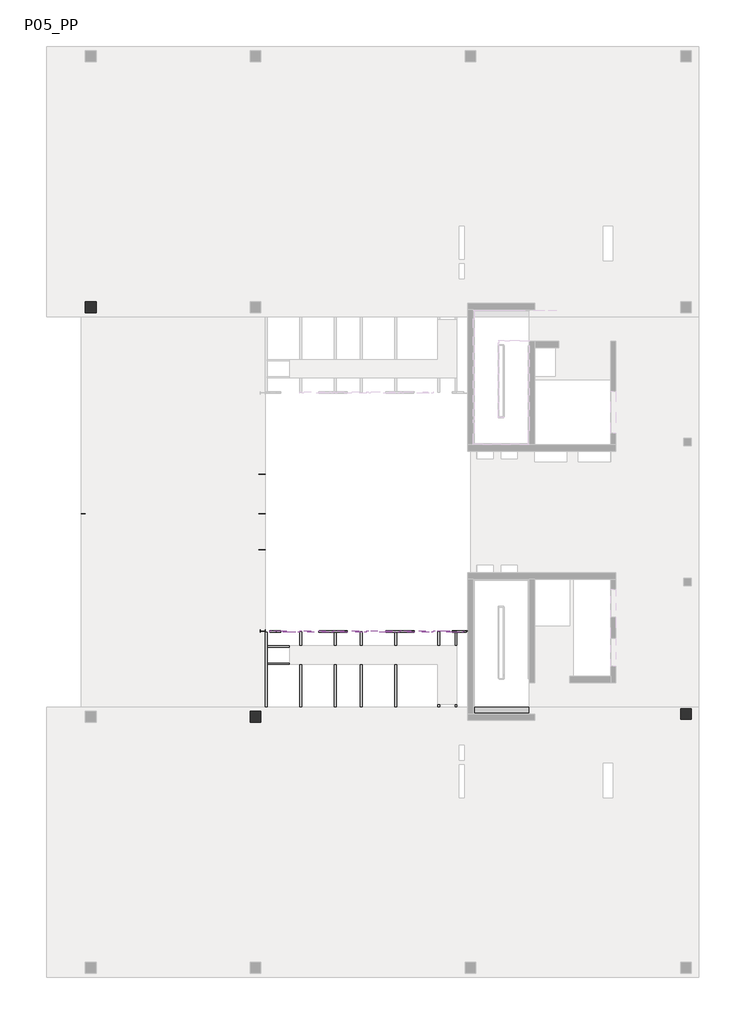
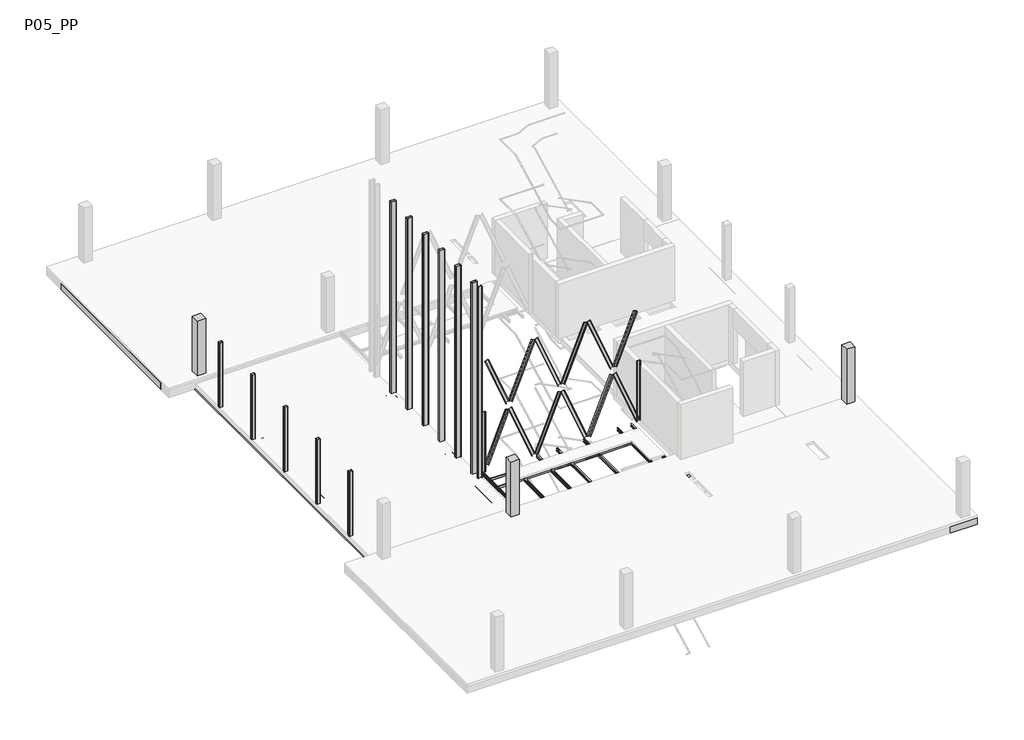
# One storey, part 2 of 7: 42 beams, 17 columns.
"""IFC4 building model written with IfcOpenShell, lengths in millimetres."""

from ifc_helpers import new_model, si_unit, frame, origin, place, context, project, spatial, polyline, outline, extrude, faceted_brep, transform, mapped, element, save
from components import ub_universal_beams_ipe_160x82_5295c27c, ub_universal_beams_ipe_160x82_633517aa, upn120x55_69f0bca1, upn120x55_efc8f615, upn120x55_2e91fe93, upn120x55_dd576345, upn120x55_d7d90911, upn200x75_22e62ea1, upn200x75_15f8b11e, upn200x75_1f64faac, upn200x75_e6c17937, upn200x75_5ddb06b6, upn200x75_df23aae5, upn200x75_7b6a578c, upn200x75_922ad74a, rhs_rectangular_hollow_section_column_200x150x5_0rhs_88d97f1c, rhs_rectangular_hollow_section_column_300x150x5_0rhs_ee9d9ef0, ub_universal_beam_column_ipe_240x120_f32cc83f, upn_200x75_111d3a53

model = new_model("IFC4")

# Units and contexts
model_context = context("Model", 3, world=origin())
ifc_project = project(units=[si_unit("LENGTHUNIT", "METRE", prefix="MILLI")], contexts=[model_context])

# Site, building, storey
site = spatial("IfcSite", under=ifc_project)
building = spatial("IfcBuilding", under=site)
storey = spatial("IfcBuildingStorey", under=building, Name="P05_PP", Elevation=26160.0)

# Beams
placement = place(None, origin())
element("IfcBeam", 1, ObjectType="M_Concrete-Rectangular Beam : 1500 x 550mm", at=placement, inside=storey, context=model_context, shape_type="Brep", body=[
    faceted_brep([(-24549.6041453, -4560.5861501, 25610.0), (-24549.6041453, -5360.5857933, 25610.0), (-24549.6041453, -6060.5861501, 25610.0), (-24549.6041453, -6060.5861501, 26010.0), (-24549.6041453, -5360.5857933, 26010.0), (-24549.6041453, -4560.5861501, 26010.0), (-10790.2146087, -4560.5861501, 26160.0), (-13390.3216429, -4560.5861501, 26160.0), (-13390.3216429, -4885.1039312, 26160.0), (-10790.2146087, -4885.1039312, 26160.0), (-24149.6041453, -6060.5861501, 25610.0), (-22882.9374805, -6060.5861501, 25610.0), (-22482.9374805, -6060.5861501, 25610.0), (-21216.2708168, -6060.5861501, 25610.0), (-20816.2708168, -6060.5861501, 25610.0), (-19549.6041539, -6060.5861501, 25610.0), (-19149.6041539, -6060.5861501, 25610.0), (-17882.9374898, -6060.5861501, 25610.0), (-17482.9374898, -6060.5861501, 25610.0), (-16216.2708252, -6060.5861501, 25610.0), (-15816.2708252, -6060.5861501, 25610.0), (-14549.604161, -6060.5861501, 25610.0), (-14149.604161, -6060.5861501, 25610.0), (-12882.9374977, -6060.5861501, 25610.0), (-12482.9374977, -6060.5861501, 25610.0), (-11216.2708336, -6060.5861501, 25610.0), (-10816.2708336, -6060.5861501, 25610.0), (-9549.6041702, -6060.5861501, 25610.0), (-9149.6041702, -6060.5861501, 25610.0), (-7882.9375051, -6060.5861501, 25610.0), (-7482.9375051, -6060.5861501, 25610.0), (-6216.2708415, -6060.5861501, 25610.0), (-5816.2708415, -6060.5861501, 25610.0), (-4553.6343046, -6060.5861501, 25610.0), (-2913.6343046, -6060.5861501, 25610.0), (-2913.6343046, -6060.5861501, 26010.0), (-4553.6343046, -6060.5861501, 26010.0), (-5816.2708415, -6060.5861501, 26010.0), (-6216.2708415, -6060.5861501, 26010.0), (-7482.9375051, -6060.5861501, 26010.0), (-7882.9375051, -6060.5861501, 26010.0), (-9149.6041702, -6060.5861501, 26010.0), (-9549.6041702, -6060.5861501, 26010.0), (-10816.2708336, -6060.5861501, 26010.0), (-11216.2708336, -6060.5861501, 26010.0), (-12482.9374977, -6060.5861501, 26010.0), (-12882.9374977, -6060.5861501, 26010.0), (-14149.604161, -6060.5861501, 26010.0), (-14549.604161, -6060.5861501, 26010.0), (-15816.2708252, -6060.5861501, 26010.0), (-16216.2708252, -6060.5861501, 26010.0), (-17482.9374898, -6060.5861501, 26010.0), (-17882.9374898, -6060.5861501, 26010.0), (-19149.6041539, -6060.5861501, 26010.0), (-19549.6041539, -6060.5861501, 26010.0), (-20816.2708168, -6060.5861501, 26010.0), (-21216.2708168, -6060.5861501, 26010.0), (-22482.9374805, -6060.5861501, 26010.0), (-22882.9374805, -6060.5861501, 26010.0), (-24149.6041453, -6060.5861501, 26010.0), (-13640.3216429, -4560.5861501, 25610.0), (-13640.3216429, -5185.1039323, 25610.0), (-10540.3248425, -5185.1039323, 25610.0), (-10540.3248425, -4885.1039323, 25610.0), (-13390.3216429, -4885.1039323, 25610.0), (-13390.3216429, -4560.5861501, 25610.0), (-2913.6343046, -4560.5861501, 25610.0), (-3266.6679242, -5135.4168883, 25610.0), (-3266.6679235, -4635.4168883, 25610.0), (-3766.6679235, -4635.4168876, 25610.0), (-3766.6679242, -5135.4168876, 25610.0), (-23241.2178639, -5260.6067298, 25610.0), (-23241.2178646, -4760.6067298, 25610.0), (-23741.2178646, -4760.6067305, 25610.0), (-23741.2178639, -5260.6067305, 25610.0), (-13390.3216429, -4560.5861501, 25859.9777344), (-13640.3216429, -4560.5861501, 25859.9777344), (-13390.3216429, -4560.5861501, 26010.0), (-10790.2146087, -4560.5861501, 26010.0), (-2913.6343046, -4560.5861501, 26010.0), (-2913.6343046, -4560.5861501, 25860.0), (-3266.6679242, -5135.4168883, 25860.0), (-3266.6679235, -4635.4168883, 25860.0), (-3766.6679242, -5135.4168876, 25860.0), (-3766.6679235, -4635.4168876, 25860.0), (-23241.2178639, -5260.6067298, 25860.0), (-23241.2178646, -4760.6067298, 25860.0), (-23741.2178639, -5260.6067305, 25860.0), (-23741.2178646, -4760.6067305, 25860.0), (-10540.3248425, -4885.1039323, 25859.9777344), (-13390.3216429, -4885.1039323, 25859.9777344), (-13640.3216429, -5185.1039323, 25859.9777344), (-10540.3248425, -5185.1039323, 25859.9777344), (-13640.3216429, -4885.1039323, 25859.9777344), (-13390.3216429, -4885.1039312, 26010.0), (-10790.2146087, -4885.1039312, 26010.0)], [[[0, 1, 2, 3, 4, 5]], [[6, 7, 8, 9]], [[2, 10, 11, 12, 13, 14, 15, 16, 17, 18, 19, 20, 21, 22, 23, 24, 25, 26, 27, 28, 29, 30, 31, 32, 33, 34, 35, 36, 37, 38, 39, 40, 41, 42, 43, 44, 45, 46, 47, 48, 49, 50, 51, 52, 53, 54, 55, 56, 57, 58, 59, 3]], [[2, 1, 0, 60, 61, 62, 63, 64, 65, 66, 34, 33, 32, 31, 30, 29, 28, 27, 26, 25, 24, 23, 22, 21, 20, 19, 18, 17, 16, 15, 14, 13, 12, 11, 10], [67, 68, 69, 70], [71, 72, 73, 74]], [[65, 75, 76, 60, 0, 5, 77, 7, 6, 78, 79, 80, 66]], [[34, 66, 80, 79, 35]], [[81, 82, 68, 67]], [[83, 81, 67, 70]], [[84, 83, 70, 69]], [[82, 84, 69, 68]], [[82, 81, 83, 84]], [[85, 86, 72, 71]], [[87, 85, 71, 74]], [[88, 87, 74, 73]], [[86, 88, 73, 72]], [[86, 85, 87, 88]], [[63, 89, 90, 64]], [[91, 92, 62, 61]], [[92, 91, 93, 76, 75, 90, 89]], [[92, 89, 63, 62]], [[91, 61, 60, 76, 93]], [[90, 75, 65, 64]], [[94, 77, 5, 4, 3, 59, 58, 57, 56, 55, 54, 53, 52, 51, 50, 49, 48, 47, 46, 45, 44, 43, 42, 41, 40, 39, 38, 37, 36, 35, 79, 78, 95]], [[95, 78, 6, 9]], [[77, 94, 8, 7]], [[94, 95, 9, 8]]]),
])
element("IfcBeam", 2, ObjectType="M_Concrete-Rectangular Beam : 1640 x 550mm", at=placement, inside=storey, context=model_context, shape_type="Brep", body=[
    faceted_brep([(-4553.6343046, -6060.5861501, 25610.0), (-4553.6343046, -15610.5871866, 25610.0), (-4553.6343046, -17110.5871866, 25610.0), (-4553.6343046, -17110.5871866, 26010.0), (-4553.6343046, -15610.5871866, 26010.0), (-4553.6343046, -6060.5861501, 26010.0), (-2913.6343046, -6060.5861501, 25610.0), (-2913.6343046, -17110.5871866, 25610.0), (-3266.6679018, -16910.606681, 25610.0), (-3266.6679062, -16410.606681, 25610.0), (-3766.6679062, -16410.6066854, 25610.0), (-3766.6679018, -16910.6066854, 25610.0), (-2913.6343046, -6060.5861501, 26010.0), (-2913.6343046, -17110.5871866, 26010.0), (-3266.6679018, -16910.606681, 25860.0), (-3266.6679062, -16410.606681, 25860.0), (-3766.6679018, -16910.6066854, 25860.0), (-3766.6679062, -16410.6066854, 25860.0)], [[[0, 1, 2, 3, 4, 5]], [[0, 6, 7, 2, 1], [8, 9, 10, 11]], [[7, 6, 12, 13]], [[6, 0, 5, 12]], [[2, 7, 13, 3]], [[14, 15, 9, 8]], [[16, 14, 8, 11]], [[17, 16, 11, 10]], [[15, 17, 10, 9]], [[15, 14, 16, 17]], [[5, 4, 3, 13, 12]]]),
])
element("IfcBeam", 3, ObjectType="M_Concrete-Rectangular Beam : 400 x 550mm", at=placement, inside=storey, context=model_context, shape_type="SweptSolid", body=[
    extrude(outline(polyline([(-14549.604161, -6060.5861501), (-14149.604161, -6060.5861501), (-14149.604161, -15610.5871866), (-14549.604161, -15610.5871866), (-14549.604161, -6060.5861501)])), frame((0.0, 0.0, 25610.0), z_axis=(0.0, 0.0, 1.0), x_axis=(1.0, 0.0, 0.0)), (0.0, 0.0, 1.0), 400.0),
])
element("IfcBeam", 4, ObjectType="M_Concrete-Rectangular Beam : 400 x 550mm", at=placement, inside=storey, context=model_context, shape_type="SweptSolid", body=[
    extrude(outline(polyline([(-12882.9374977, -6060.5861501), (-12482.9374977, -6060.5861501), (-12482.9374977, -15610.5871866), (-12882.9374977, -15610.5871866), (-12882.9374977, -6060.5861501)])), frame((0.0, 0.0, 25610.0), z_axis=(0.0, 0.0, 1.0), x_axis=(1.0, 0.0, 0.0)), (0.0, 0.0, 1.0), 400.0),
])
element("IfcBeam", 5, ObjectType="M_Concrete-Rectangular Beam : 400 x 550mm", at=placement, inside=storey, context=model_context, shape_type="SweptSolid", body=[
    extrude(outline(polyline([(-11216.2708336, -6060.5861501), (-10816.2708336, -6060.5861501), (-10816.2708336, -15610.5871866), (-11216.2708336, -15610.5871866), (-11216.2708336, -6060.5861501)])), frame((0.0, 0.0, 25610.0), z_axis=(0.0, 0.0, 1.0), x_axis=(1.0, 0.0, 0.0)), (0.0, 0.0, 1.0), 400.0),
])
element("IfcBeam", 6, ObjectType="M_Concrete-Rectangular Beam : 400 x 550mm", at=placement, inside=storey, context=model_context, shape_type="SweptSolid", body=[
    extrude(outline(polyline([(-9549.6041702, -6060.5861501), (-9149.6041702, -6060.5861501), (-9149.6041702, -15610.5871866), (-9549.6041702, -15610.5871866), (-9549.6041702, -6060.5861501)])), frame((0.0, 0.0, 25610.0), z_axis=(0.0, 0.0, 1.0), x_axis=(1.0, 0.0, 0.0)), (0.0, 0.0, 1.0), 400.0),
])
element("IfcBeam", 7, ObjectType="M_Concrete-Rectangular Beam : 400 x 550mm", at=placement, inside=storey, context=model_context, shape_type="SweptSolid", body=[
    extrude(outline(polyline([(-7882.9375051, -6060.5861501), (-7482.9375051, -6060.5861501), (-7482.9375051, -15610.5871866), (-7882.9375051, -15610.5871866), (-7882.9375051, -6060.5861501)])), frame((0.0, 0.0, 25610.0), z_axis=(0.0, 0.0, 1.0), x_axis=(1.0, 0.0, 0.0)), (0.0, 0.0, 1.0), 400.0),
])
element("IfcBeam", 8, ObjectType="M_Concrete-Rectangular Beam : 400 x 550mm", at=placement, inside=storey, context=model_context, shape_type="SweptSolid", body=[
    extrude(outline(polyline([(-6216.2708415, -6060.5861501), (-5816.2708415, -6060.5861501), (-5816.2708415, -15610.5871866), (-6216.2708415, -15610.5871866), (-6216.2708415, -6060.5861501)])), frame((0.0, 0.0, 25610.0), z_axis=(0.0, 0.0, 1.0), x_axis=(1.0, 0.0, 0.0)), (0.0, 0.0, 1.0), 400.0),
])
element("IfcBeam", 9, ObjectType="M_Concrete-Rectangular Beam : 700 x 400mm", at=placement, inside=storey, context=model_context, shape_type="Brep", body=[
    faceted_brep([(-30891.2267916, 14289.4134441, 25460.0), (-31591.2267916, 14289.4134441, 25460.0), (-31591.2267916, 14289.4134441, 25560.0), (-30891.2267916, 14289.4134441, 25560.0), (-30891.2267916, 13539.4137942, 25860.0), (-31591.2267916, 13539.4137942, 25860.0), (-31591.2267916, -4560.5857933, 25860.0), (-30891.2267916, -4560.5857933, 25860.0), (-30991.2254277, 1714.2136415, 25860.0), (-30991.2254279, 1314.2136415, 25860.0), (-31391.2254279, 1314.2136417, 25860.0), (-31391.2254277, 1714.2136417, 25860.0), (-30991.2252559, 7614.2151427, 25860.0), (-30991.2252559, 7214.2151427, 25860.0), (-31391.2252559, 7214.2151427, 25860.0), (-31391.2252559, 7614.2151427, 25860.0), (-31591.2267916, -5260.6067333, 25460.0), (-31591.2267916, -5260.6067333, 25560.0), (-31591.2267916, -4560.5857933, 25560.0), (-31591.2267916, 13539.4137942, 25560.0), (-30891.2267916, 14239.3934096, 25460.0), (-31391.2593058, 14239.3934099, 25460.0), (-31391.2593061, 13739.3934099, 25460.0), (-30891.2267916, 13739.3934096, 25460.0), (-30891.2267916, -4760.6067328, 25460.0), (-31391.2598282, -4760.6067335, 25460.0), (-31391.2598275, -5260.6067333, 25460.0), (-30991.2254279, 1314.2136415, 25460.0), (-30991.2254277, 1714.2136415, 25460.0), (-31391.2254277, 1714.2136417, 25460.0), (-31391.2254279, 1314.2136417, 25460.0), (-30991.2252559, 7214.2151427, 25460.0), (-30991.2252559, 7614.2151427, 25460.0), (-31391.2252559, 7614.2151427, 25460.0), (-31391.2252559, 7214.2151427, 25460.0), (-30891.2267916, 13739.3934096, 25560.0), (-30891.2267916, 13539.4137942, 25560.0), (-30891.2267916, -4560.5857933, 25560.0), (-30891.2267916, -4760.6067328, 25560.0), (-31391.2598282, -4760.6067335, 25560.0), (-31391.2598275, -5260.6067333, 25560.0), (-31391.2593061, 13739.3934099, 25560.0), (-31391.2593058, 14239.3934099, 25560.0), (-30891.2267916, 14239.3934096, 25560.0)], [[[0, 1, 2, 3]], [[4, 5, 6, 7], [8, 9, 10, 11], [12, 13, 14, 15]], [[1, 16, 17, 18, 6, 5, 19, 2]], [[1, 0, 20, 21, 22, 23, 24, 25, 26, 16], [27, 28, 29, 30], [31, 32, 33, 34]], [[24, 23, 35, 36, 4, 7, 37, 38]], [[27, 9, 8, 28]], [[9, 27, 30, 10]], [[10, 30, 29, 11]], [[11, 29, 28, 8]], [[31, 13, 12, 32]], [[13, 31, 34, 14]], [[14, 34, 33, 15]], [[15, 33, 32, 12]], [[26, 25, 39, 40]], [[25, 24, 38, 39]], [[23, 22, 41, 35]], [[22, 21, 42, 41]], [[21, 20, 43, 42]], [[19, 36, 35, 41, 42, 43, 3, 2]], [[36, 19, 5, 4]], [[37, 18, 17, 40, 39, 38]], [[18, 37, 7, 6]], [[0, 3, 43, 20]], [[16, 26, 40, 17]]]),
])
element("IfcBeam", 10, ObjectType="M_Concrete-Rectangular Beam : 700 x 400mm", at=placement, inside=storey, context=model_context, shape_type="Brep", body=[
    faceted_brep([(-23741.1819308, -5360.5857933, 25460.0), (-23041.1819308, -5360.5857933, 25460.0), (-23041.1819308, -5360.5857933, 25610.0), (-23741.1819308, -5360.5857933, 25610.0), (-23741.1819308, -5360.5857933, 25560.0), (-23041.1819308, 14339.4137942, 25460.0), (-23741.1819308, 14339.4137942, 25460.0), (-23741.1819308, 14339.4137942, 25560.0), (-23041.1819308, 14339.4137942, 25560.0), (-23741.1819308, -4560.5861501, 25860.0), (-23041.1819308, -4560.5861501, 25860.0), (-23041.1819308, 13539.4137942, 25860.0), (-23741.1819308, 13539.4137942, 25860.0), (-23241.1836565, 1664.4139855, 25860.0), (-23241.1836563, 1264.4139855, 25860.0), (-23641.1836563, 1264.4139854, 25860.0), (-23641.1836565, 1664.4139854, 25860.0), (-23241.1836617, 7714.4139908, 25860.0), (-23241.1836661, 7314.4139908, 25860.0), (-23641.1836661, 7314.4139951, 25860.0), (-23641.1836617, 7714.4139951, 25860.0), (-23741.1819308, -5260.6067305, 25610.0), (-23741.1819308, -5260.6067305, 25460.0), (-23241.2178639, -5260.6067298, 25460.0), (-23241.2178646, -4760.6067298, 25460.0), (-23741.1819308, -4760.6067305, 25460.0), (-23741.1819308, 13739.3934138, 25460.0), (-23241.2178864, 13739.3934141, 25460.0), (-23241.2178866, 14239.3934141, 25460.0), (-23741.1819308, 14239.3934138, 25460.0), (-23241.1836563, 1264.4139855, 25460.0), (-23241.1836565, 1664.4139855, 25460.0), (-23641.1836565, 1664.4139854, 25460.0), (-23641.1836563, 1264.4139854, 25460.0), (-23241.1836661, 7314.4139908, 25460.0), (-23241.1836617, 7714.4139908, 25460.0), (-23641.1836617, 7714.4139951, 25460.0), (-23641.1836661, 7314.4139951, 25460.0), (-23041.1819308, 13539.4137942, 25560.0), (-23041.1819308, -4560.5861501, 25610.0), (-23741.1819308, -4560.5861501, 25610.0), (-23741.1819308, -4760.6067305, 25610.0), (-23241.2178646, -4760.6067298, 25610.0), (-23241.2178639, -5260.6067298, 25610.0), (-23241.2178864, 13739.3934141, 25560.0), (-23241.2178866, 14239.3934141, 25560.0), (-23741.1819308, 13739.3934138, 25560.0), (-23741.1819308, 13539.4137942, 25560.0), (-23741.1819308, 14239.3934138, 25560.0)], [[[0, 1, 2, 3, 4]], [[5, 6, 7, 8]], [[9, 10, 11, 12], [13, 14, 15, 16], [17, 18, 19, 20]], [[3, 21, 22, 0, 4]], [[1, 0, 22, 23, 24, 25, 26, 27, 28, 29, 6, 5], [30, 31, 32, 33], [34, 35, 36, 37]], [[1, 5, 8, 38, 11, 10, 39, 2]], [[10, 9, 40, 39]], [[30, 14, 13, 31]], [[14, 30, 33, 15]], [[15, 33, 32, 16]], [[16, 32, 31, 13]], [[34, 18, 17, 35]], [[18, 34, 37, 19]], [[19, 37, 36, 20]], [[20, 36, 35, 17]], [[2, 39, 40, 41, 42, 43, 21, 3]], [[28, 27, 44, 45]], [[27, 26, 46, 44]], [[23, 43, 42, 24]], [[43, 23, 22, 21]], [[24, 42, 41, 25]], [[47, 38, 8, 7, 48, 45, 44, 46]], [[38, 47, 12, 11]], [[40, 9, 12, 47, 46, 26, 25, 41]], [[29, 28, 45, 48]], [[6, 29, 48, 7]]]),
])
element("IfcBeam", 11, ObjectType="M_Concrete-Rectangular Beam : 700 x 550mm", at=placement, inside=storey, context=model_context, shape_type="SweptSolid", body=[
    extrude(outline(polyline([(-33190.2931093, 24589.4144807), (-32490.2931093, 24589.4144807), (-32490.2931093, 14339.4137942), (-33190.2931093, 14339.4137942), (-33190.2931093, 24589.4144807)])), frame((0.0, 0.0, 25610.0), z_axis=(0.0, 0.0, 1.0), x_axis=(1.0, 0.0, 0.0)), (0.0, 0.0, 1.0), 400.0),
])
ub_universal_beams_ipe_160x82_shape = ub_universal_beams_ipe_160x82_5295c27c(model_context)
element("IfcBeam", 12, ObjectType="UB-Universal Beams : IPE 160x82", at=placement, inside=storey, context=model_context, shape_type="MappedRepresentation", body=[
    mapped(ub_universal_beams_ipe_160x82_shape, transform((-14190.4459331, -3192.6367352, 26080.0), x_axis=(0.0, 1.0, 0.0), y_axis=(-1.0, 0.0, 0.0), z_axis=(0.0, 0.0, 1.0))),
])
element("IfcBeam", 13, ObjectType="UB-Universal Beams : IPE 160x82", at=placement, inside=storey, context=model_context, shape_type="MappedRepresentation", body=[
    mapped(ub_universal_beams_ipe_160x82_shape, transform((-14990.4459326, -3192.6367225, 26080.0), x_axis=(0.0, 1.0, 0.0), y_axis=(-1.0, 0.0, 0.0), z_axis=(0.0, 0.0, 1.0))),
])
element("IfcBeam", 14, ObjectType="UB-Universal Beams : IPE 160x82", at=placement, inside=storey, context=model_context, shape_type="MappedRepresentation", body=[
    mapped(ub_universal_beams_ipe_160x82_shape, transform((-16990.4459316, -3192.6366908, 26080.0), x_axis=(0.0, 1.0, 0.0), y_axis=(-1.0, 0.0, 0.0), z_axis=(0.0, 0.0, 1.0))),
])
element("IfcBeam", 15, ObjectType="UB-Universal Beams : IPE 160x82", at=placement, inside=storey, context=model_context, shape_type="MappedRepresentation", body=[
    mapped(ub_universal_beams_ipe_160x82_shape, transform((-18590.4459308, -3192.6366654, 26080.0), x_axis=(0.0, 1.0, 0.0), y_axis=(-1.0, 0.0, 0.0), z_axis=(0.0, 0.0, 1.0))),
])
element("IfcBeam", 16, ObjectType="UB-Universal Beams : IPE 160x82", at=placement, inside=storey, context=model_context, shape_type="MappedRepresentation", body=[
    mapped(ub_universal_beams_ipe_160x82_shape, transform((-19790.4459314, -3192.6366464, 26080.0), x_axis=(0.0, 1.0, 0.0), y_axis=(-1.0, 0.0, 0.0), z_axis=(0.0, 0.0, 1.0))),
])
element("IfcBeam", 17, ObjectType="UB-Universal Beams : IPE 160x82", at=placement, inside=storey, context=model_context, shape_type="MappedRepresentation", body=[
    mapped(ub_universal_beams_ipe_160x82_shape, transform((-21390.4459306, -3192.636621, 26080.0), x_axis=(0.0, 1.0, 0.0), y_axis=(-1.0, 0.0, 0.0), z_axis=(0.0, 0.0, 1.0))),
])
ub_universal_beams_ipe_160x82_2_shape = ub_universal_beams_ipe_160x82_633517aa(model_context)
element("IfcBeam", 18, ObjectType="UB-Universal Beams : IPE 160x82", at=placement, inside=storey, context=model_context, shape_type="MappedRepresentation", body=[
    mapped(ub_universal_beams_ipe_160x82_2_shape, transform((-22991.1860553, -3192.6365957, 26080.0), x_axis=(0.0, 1.0, 0.0), y_axis=(-1.0, 0.0, 0.0), z_axis=(0.0, 0.0, 1.0))),
])
upn120x55_shape = upn120x55_69f0bca1(model_context)
element("IfcBeam", 19, ObjectType="M_MC Shapes : UPN120x55", at=placement, inside=storey, context=model_context, shape_type="MappedRepresentation", body=[
    mapped(upn120x55_shape, transform((-14590.4459328, -1772.1875003, 26100.0), x_axis=(0.9999999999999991, -4.319868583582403e-08, 0.0), y_axis=(4.319868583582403e-08, 0.9999999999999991, 0.0), z_axis=(0.0, 0.0, 1.0))),
])
element("IfcBeam", 20, ObjectType="M_MC Shapes : UPN120x55", at=placement, inside=storey, context=model_context, shape_type="MappedRepresentation", body=[
    mapped(upn120x55_shape, transform((-14590.4459328, -2572.1874803, 26100.0), x_axis=(0.9999999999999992, -4.0441322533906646e-08, 0.0), y_axis=(4.0441322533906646e-08, 0.9999999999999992, 0.0), z_axis=(0.0, 0.0, 1.0))),
])
upn120x55_2_shape = upn120x55_efc8f615(model_context)
element("IfcBeam", 21, ObjectType="M_MC Shapes : UPN120x55", at=placement, inside=storey, context=model_context, shape_type="MappedRepresentation", body=[
    mapped(upn120x55_2_shape, transform((-15990.4459321, -2572.1874237, 26100.0), x_axis=(0.9999999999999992, -4.0441322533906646e-08, 0.0), y_axis=(4.0441322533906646e-08, 0.9999999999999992, 0.0), z_axis=(0.0, 0.0, 1.0))),
])
element("IfcBeam", 22, ObjectType="M_MC Shapes : UPN120x55", at=placement, inside=storey, context=model_context, shape_type="MappedRepresentation", body=[
    mapped(upn120x55_2_shape, transform((-15990.4459321, -1772.1874398, 26100.0), x_axis=(0.9999999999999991, -4.319868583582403e-08, 0.0), y_axis=(4.319868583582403e-08, 0.9999999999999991, 0.0), z_axis=(0.0, 0.0, 1.0))),
])
upn120x55_3_shape = upn120x55_2e91fe93(model_context)
element("IfcBeam", 23, ObjectType="M_MC Shapes : UPN120x55", at=placement, inside=storey, context=model_context, shape_type="MappedRepresentation", body=[
    mapped(upn120x55_3_shape, transform((-20590.445931, -2572.1872377, 26100.0), x_axis=(0.9999999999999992, -4.0441322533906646e-08, 0.0), y_axis=(4.0441322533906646e-08, 0.9999999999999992, 0.0), z_axis=(0.0, 0.0, 1.0))),
])
element("IfcBeam", 24, ObjectType="M_MC Shapes : UPN120x55", at=placement, inside=storey, context=model_context, shape_type="MappedRepresentation", body=[
    mapped(upn120x55_3_shape, transform((-17790.4459312, -2572.1873509, 26100.0), x_axis=(0.9999999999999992, -4.0441322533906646e-08, 0.0), y_axis=(4.0441322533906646e-08, 0.9999999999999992, 0.0), z_axis=(0.0, 0.0, 1.0))),
])
element("IfcBeam", 25, ObjectType="M_MC Shapes : UPN120x55", at=placement, inside=storey, context=model_context, shape_type="MappedRepresentation", body=[
    mapped(upn120x55_3_shape, transform((-20590.445931, -1772.1872411, 26100.0), x_axis=(0.9999999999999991, -4.319868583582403e-08, 0.0), y_axis=(4.319868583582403e-08, 0.9999999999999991, 0.0), z_axis=(0.0, 0.0, 1.0))),
])
element("IfcBeam", 26, ObjectType="M_MC Shapes : UPN120x55", at=placement, inside=storey, context=model_context, shape_type="MappedRepresentation", body=[
    mapped(upn120x55_3_shape, transform((-17790.4459312, -1772.1873621, 26100.0), x_axis=(0.9999999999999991, -4.319868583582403e-08, 0.0), y_axis=(4.319868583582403e-08, 0.9999999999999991, 0.0), z_axis=(0.0, 0.0, 1.0))),
])
upn120x55_4_shape = upn120x55_dd576345(model_context)
element("IfcBeam", 27, ObjectType="M_MC Shapes : UPN120x55", at=placement, inside=storey, context=model_context, shape_type="MappedRepresentation", body=[
    mapped(upn120x55_4_shape, transform((-19190.4459311, -2572.1872943, 26100.0), x_axis=(0.9999999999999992, -4.0441322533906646e-08, 0.0), y_axis=(4.0441322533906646e-08, 0.9999999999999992, 0.0), z_axis=(0.0, 0.0, 1.0))),
])
element("IfcBeam", 28, ObjectType="M_MC Shapes : UPN120x55", at=placement, inside=storey, context=model_context, shape_type="MappedRepresentation", body=[
    mapped(upn120x55_4_shape, transform((-19190.4459311, -1772.1873016, 26100.0), x_axis=(0.9999999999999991, -4.319868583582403e-08, 0.0), y_axis=(4.319868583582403e-08, 0.9999999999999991, 0.0), z_axis=(0.0, 0.0, 1.0))),
])
upn120x55_5_shape = upn120x55_d7d90911(model_context)
element("IfcBeam", 29, ObjectType="M_MC Shapes : UPN120x55", at=placement, inside=storey, context=model_context, shape_type="MappedRepresentation", body=[
    mapped(upn120x55_5_shape, transform((-22165.4459321, -2572.187174, 26100.0), x_axis=(0.9999999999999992, -4.0441322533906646e-08, 0.0), y_axis=(4.0441322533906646e-08, 0.9999999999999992, 0.0), z_axis=(0.0, 0.0, 1.0))),
])
element("IfcBeam", 30, ObjectType="M_MC Shapes : UPN120x55", at=placement, inside=storey, context=model_context, shape_type="MappedRepresentation", body=[
    mapped(upn120x55_5_shape, transform((-22165.4459321, -1772.1871731, 26100.0), x_axis=(0.9999999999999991, -4.319868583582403e-08, 0.0), y_axis=(4.319868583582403e-08, 0.9999999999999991, 0.0), z_axis=(0.0, 0.0, 1.0))),
])
upn200x75_shape = upn200x75_22e62ea1(model_context)
element("IfcBeam", 31, ObjectType="M_MC Shapes : UPN200x75", at=placement, inside=storey, context=model_context, shape_type="MappedRepresentation", body=[
    mapped(upn200x75_shape, transform((-22210.933959, -1021.4872932, 27886.1409985), x_axis=(-0.3712989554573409, -1.1791242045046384e-08, -0.9285133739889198), y_axis=(3.175673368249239e-08, -0.9999999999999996, 0.0), z_axis=(-0.9285133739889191, -2.9486551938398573e-08, 0.37129895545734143))),
])
upn200x75_2_shape = upn200x75_15f8b11e(model_context)
element("IfcBeam", 32, ObjectType="M_MC Shapes : UPN200x75", at=placement, inside=storey, context=model_context, shape_type="MappedRepresentation", body=[
    mapped(upn200x75_2_shape, transform((-14471.8716047, -1021.4872932, 27889.3990465), x_axis=(0.3712989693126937, -1.1791242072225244e-08, -0.9285133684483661), y_axis=(3.175673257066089e-08, 0.9999999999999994, 0.0), z_axis=(0.9285133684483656, -2.9486550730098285e-08, 0.37129896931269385))),
])
upn200x75_3_shape = upn200x75_1f64faac(model_context)
element("IfcBeam", 33, ObjectType="M_MC Shapes : UPN200x75", at=placement, inside=storey, context=model_context, shape_type="MappedRepresentation", body=[
    mapped(upn200x75_3_shape, transform((-14471.8716047, -1021.4872932, 31730.6012021), x_axis=(0.3712989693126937, -1.1791242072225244e-08, 0.9285133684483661), y_axis=(-3.175672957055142e-08, -0.9999999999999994, 0.0), z_axis=(0.9285133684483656, -2.9486547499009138e-08, -0.37129896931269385))),
])
upn200x75_4_shape = upn200x75_e6c17937(model_context)
element("IfcBeam", 34, ObjectType="M_MC Shapes : UPN200x75", at=placement, inside=storey, context=model_context, shape_type="MappedRepresentation", body=[
    mapped(upn200x75_4_shape, transform((-22210.933959, -1021.4872932, 31733.85925), x_axis=(-0.3712989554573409, -1.1791242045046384e-08, 0.9285133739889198), y_axis=(-3.175673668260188e-08, 0.9999999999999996, 0.0), z_axis=(-0.9285133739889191, -2.948655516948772e-08, -0.37129895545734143))),
])
upn200x75_5_shape = upn200x75_5ddb06b6(model_context)
element("IfcBeam", 35, ObjectType="M_MC Shapes : UPN200x75", at=placement, inside=storey, context=model_context, shape_type="MappedRepresentation", body=[
    mapped(upn200x75_5_shape, transform((-16016.0393957, -1021.4872929, 27897.0114847), x_axis=(-0.3751231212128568, -1.1576566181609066e-08, -0.9269749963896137), y_axis=(3.086071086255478e-08, -0.9999999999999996, 0.0), z_axis=(-0.9269749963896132, -2.8607107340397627e-08, 0.37512312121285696))),
])
upn200x75_6_shape = upn200x75_df23aae5(model_context)
element("IfcBeam", 36, ObjectType="M_MC Shapes : UPN200x75", at=placement, inside=storey, context=model_context, shape_type="MappedRepresentation", body=[
    mapped(upn200x75_6_shape, transform((-17564.6040172, -1021.4872929, 27897.0113105), x_axis=(0.3751231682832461, -1.1576567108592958e-08, -0.9269749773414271), y_axis=(3.086070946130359e-08, 0.9999999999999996, 0.0), z_axis=(0.9269749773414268, -2.8607105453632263e-08, 0.3751231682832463))),
])
upn200x75_7_shape = upn200x75_7b6a578c(model_context)
element("IfcBeam", 37, ObjectType="M_MC Shapes : UPN200x75", at=placement, inside=storey, context=model_context, shape_type="MappedRepresentation", body=[
    mapped(upn200x75_7_shape, transform((-19117.1200229, -1021.4872929, 27895.9307972), x_axis=(-0.3750164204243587, -1.1573273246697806e-08, -0.927018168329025), y_axis=(3.08607106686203e-08, -0.9999999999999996, 0.0), z_axis=(-0.9270181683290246, -2.8608439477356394e-08, 0.3750164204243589))),
])
upn200x75_8_shape = upn200x75_922ad74a(model_context)
element("IfcBeam", 38, ObjectType="M_MC Shapes : UPN200x75", at=placement, inside=storey, context=model_context, shape_type="MappedRepresentation", body=[
    mapped(upn200x75_8_shape, transform((-20665.2420337, -1021.4872929, 27895.9308442), x_axis=(0.3750164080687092, -1.1573272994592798e-08, -0.9270181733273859), y_axis=(3.0860711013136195e-08, 0.9999999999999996, 0.0), z_axis=(0.9270181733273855, -2.860843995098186e-08, 0.37501640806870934))),
])
element("IfcBeam", 39, ObjectType="M_MC Shapes : UPN200x75", at=placement, inside=storey, context=model_context, shape_type="MappedRepresentation", body=[
    mapped(upn200x75_5_shape, transform((-17564.6040172, -1021.4872929, 31722.9889381), x_axis=(0.3751231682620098, -1.157656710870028e-08, 0.9269749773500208), y_axis=(-3.086070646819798e-08, -0.9999999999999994, 0.0), z_axis=(0.9269749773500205, -2.860710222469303e-08, -0.37512316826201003))),
])
element("IfcBeam", 40, ObjectType="M_MC Shapes : UPN200x75", at=placement, inside=storey, context=model_context, shape_type="MappedRepresentation", body=[
    mapped(upn200x75_7_shape, transform((-20665.2420334, -1021.4872929, 31724.0694044), x_axis=(0.3750164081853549, -1.1573272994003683e-08, 0.927018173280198), y_axis=(-3.0860708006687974e-08, -0.9999999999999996, 0.0), z_axis=(0.9270181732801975, -2.860843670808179e-08, -0.3750164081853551))),
])
element("IfcBeam", 41, ObjectType="M_MC Shapes : UPN200x75", at=placement, inside=storey, context=model_context, shape_type="MappedRepresentation", body=[
    mapped(upn200x75_8_shape, transform((-19117.1200224, -1021.4872929, 31724.0694514), x_axis=(-0.3750164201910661, -1.1573273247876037e-08, 0.9270181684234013), y_axis=(-3.086071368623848e-08, 0.9999999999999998, 0.0), z_axis=(-0.927018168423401, -2.860844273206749e-08, -0.37501642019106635))),
])
element("IfcBeam", 42, ObjectType="M_MC Shapes : UPN200x75", at=placement, inside=storey, context=model_context, shape_type="MappedRepresentation", body=[
    mapped(upn200x75_6_shape, transform((-16016.0393958, -1021.4872929, 31722.9887639), x_axis=(-0.3751231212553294, -1.1576566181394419e-08, 0.9269749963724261), y_axis=(-3.0860713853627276e-08, 0.9999999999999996, 0.0), z_axis=(-0.9269749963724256, -2.860711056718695e-08, -0.37512312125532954))),
])

# Columns
element("IfcColumn", 43, ObjectType="Concrete-Rectangular-Column : Pilar_Rectangular-Formigo-500x500", at=placement, inside=storey, context=model_context, shape_type="Brep", body=[
    faceted_brep([(-3266.3636607, -4635.2475016, 26160.0), (-3266.3636743, -5135.2475016, 26160.0), (-3766.3636743, -5135.247488, 26160.0), (-3766.3636607, -4635.247488, 26160.0), (-3266.3636607, -4635.2475016, 29610.0), (-3266.3636743, -5135.2475016, 29610.0), (-3266.3636743, -5135.2475016, 29360.0), (-3266.3636607, -4635.2475016, 29360.0), (-3766.3636743, -5135.247488, 29610.0), (-3766.3636743, -5135.247488, 29360.0), (-3766.3636607, -4635.247488, 29610.0), (-3766.3636607, -4635.247488, 29360.0)], [[[0, 1, 2, 3]], [[4, 5, 6, 1, 0, 7]], [[5, 8, 9, 2, 1, 6]], [[8, 10, 11, 3, 2, 9]], [[10, 4, 7, 0, 3, 11]], [[4, 10, 8, 5]]]),
])
element("IfcColumn", 44, ObjectType="Concrete-Rectangular-Column : Pilar_Rectangular-Formigo-500x500", at=placement, inside=storey, context=model_context, shape_type="Brep", body=[
    faceted_brep([(-23240.913614, -4760.4373519, 26160.0), (-23240.9136132, -5260.4373519, 26160.0), (-23740.9136132, -5260.4373527, 26160.0), (-23740.913614, -4760.4373527, 26160.0), (-23240.913614, -4760.4373519, 29610.0), (-23240.9136132, -5260.4373519, 29610.0), (-23240.9136132, -5260.4373519, 29360.0), (-23240.913614, -4760.4373519, 29360.0), (-23740.9136132, -5260.4373527, 29610.0), (-23740.9136132, -5260.4373527, 29360.0), (-23740.913614, -4760.4373527, 29610.0), (-23740.913614, -4760.4373527, 29360.0)], [[[0, 1, 2, 3]], [[4, 5, 6, 1, 0, 7]], [[5, 8, 9, 2, 1, 6]], [[8, 10, 11, 3, 2, 9]], [[10, 4, 7, 0, 3, 11]], [[4, 10, 8, 5]]]),
])
element("IfcColumn", 45, ObjectType="Concrete-Rectangular-Column : Pilar_Rectangular-Formigo-500x500", at=placement, inside=storey, context=model_context, shape_type="Brep", body=[
    faceted_brep([(-30890.9550513, 14239.562786, 26160.0), (-30890.9550524, 13739.562786, 26160.0), (-31390.9550524, 13739.5627871, 26160.0), (-31390.9550513, 14239.5627871, 26160.0), (-30890.9550513, 14239.562786, 29610.0), (-30890.9550524, 13739.562786, 29610.0), (-30890.9550524, 13739.562786, 29360.0), (-30890.9550513, 14239.562786, 29360.0), (-31390.9550524, 13739.5627871, 29610.0), (-31390.9550524, 13739.5627871, 29360.0), (-31390.9550513, 14239.5627871, 29610.0), (-31390.9550513, 14239.5627871, 29360.0)], [[[0, 1, 2, 3]], [[4, 5, 6, 1, 0, 7]], [[5, 8, 9, 2, 1, 6]], [[8, 10, 11, 3, 2, 9]], [[10, 4, 7, 0, 3, 11]], [[4, 10, 8, 5]]]),
])
rhs_rectangular_hollow_section_column_200x150x5_0rhs_shape = rhs_rectangular_hollow_section_column_200x150x5_0rhs_88d97f1c(model_context)
element("IfcColumn", 46, ObjectType="RHS-Rectangular Hollow Section-Column : 200x150x5.0RHS", at=placement, inside=storey, context=model_context, shape_type="MappedRepresentation", body=[
    mapped(rhs_rectangular_hollow_section_column_200x150x5_0rhs_shape, transform((-31490.8767919, 7823.2960679, 0.0), x_axis=(1.0, -2.458740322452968e-09, 0.0), y_axis=(2.458740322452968e-09, 1.0, 0.0), z_axis=(0.0, 0.0, 1.0))),
])
element("IfcColumn", 47, ObjectType="RHS-Rectangular Hollow Section-Column : 200x150x5.0RHS", at=placement, inside=storey, context=model_context, shape_type="MappedRepresentation", body=[
    mapped(rhs_rectangular_hollow_section_column_200x150x5_0rhs_shape, transform((-31490.8767919, 11156.6960685, 0.0), x_axis=(1.0, -2.458740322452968e-09, 0.0), y_axis=(2.458740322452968e-09, 1.0, 0.0), z_axis=(0.0, 0.0, 1.0))),
])
element("IfcColumn", 48, ObjectType="RHS-Rectangular Hollow Section-Column : 200x150x5.0RHS", at=placement, inside=storey, context=model_context, shape_type="MappedRepresentation", body=[
    mapped(rhs_rectangular_hollow_section_column_200x150x5_0rhs_shape, transform((-31490.8767919, 4489.8960682, 0.0), x_axis=(1.0, -2.458740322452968e-09, 0.0), y_axis=(2.458740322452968e-09, 1.0, 0.0), z_axis=(0.0, 0.0, 1.0))),
])
element("IfcColumn", 49, ObjectType="RHS-Rectangular Hollow Section-Column : 200x150x5.0RHS", at=placement, inside=storey, context=model_context, shape_type="MappedRepresentation", body=[
    mapped(rhs_rectangular_hollow_section_column_200x150x5_0rhs_shape, transform((-31490.8767919, 1156.4960672, 0.0), x_axis=(1.0, -2.458740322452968e-09, 0.0), y_axis=(2.458740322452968e-09, 1.0, 0.0), z_axis=(0.0, 0.0, 1.0))),
])
element("IfcColumn", 50, ObjectType="RHS-Rectangular Hollow Section-Column : 200x150x5.0RHS", at=placement, inside=storey, context=model_context, shape_type="MappedRepresentation", body=[
    mapped(rhs_rectangular_hollow_section_column_200x150x5_0rhs_shape, transform((-31490.8767919, -2176.9039321, 0.0), x_axis=(1.0, -2.458740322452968e-09, 0.0), y_axis=(2.458740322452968e-09, 1.0, 0.0), z_axis=(0.0, 0.0, 1.0))),
])
rhs_rectangular_hollow_section_column_300x150x5_0rhs_shape = rhs_rectangular_hollow_section_column_300x150x5_0rhs_ee9d9ef0(model_context)
element("IfcColumn", 51, ObjectType="RHS-Rectangular Hollow Section-Column : 300x150x5.0RHS", at=placement, inside=storey, context=model_context, shape_type="MappedRepresentation", body=[
    mapped(rhs_rectangular_hollow_section_column_300x150x5_0rhs_shape, transform((-23190.3172292, 7822.7472328, 0.0), x_axis=(3.1824473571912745e-08, 0.9999999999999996, 0.0), y_axis=(-0.9999999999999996, 3.1824473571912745e-08, 0.0), z_axis=(0.0, 0.0, 1.0))),
])
element("IfcColumn", 52, ObjectType="RHS-Rectangular Hollow Section-Column : 300x150x5.0RHS", at=placement, inside=storey, context=model_context, shape_type="MappedRepresentation", body=[
    mapped(rhs_rectangular_hollow_section_column_300x150x5_0rhs_shape, transform((-23190.3171761, 6156.0806907, 0.0), x_axis=(3.1824473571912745e-08, 0.9999999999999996, 0.0), y_axis=(-0.9999999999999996, 3.1824473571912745e-08, 0.0), z_axis=(0.0, 0.0, 1.0))),
])
element("IfcColumn", 53, ObjectType="RHS-Rectangular Hollow Section-Column : 300x150x5.0RHS", at=placement, inside=storey, context=model_context, shape_type="MappedRepresentation", body=[
    mapped(rhs_rectangular_hollow_section_column_300x150x5_0rhs_shape, transform((-23190.3171761, 4489.8960868, 0.0), x_axis=(3.1824473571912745e-08, 0.9999999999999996, 0.0), y_axis=(-0.9999999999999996, 3.1824473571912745e-08, 0.0), z_axis=(0.0, 0.0, 1.0))),
])
element("IfcColumn", 54, ObjectType="RHS-Rectangular Hollow Section-Column : 300x150x5.0RHS", at=placement, inside=storey, context=model_context, shape_type="MappedRepresentation", body=[
    mapped(rhs_rectangular_hollow_section_column_300x150x5_0rhs_shape, transform((-23190.3171761, 2822.7476086, 0.0), x_axis=(3.1824473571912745e-08, 0.9999999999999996, 0.0), y_axis=(-0.9999999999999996, 3.1824473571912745e-08, 0.0), z_axis=(0.0, 0.0, 1.0))),
])
element("IfcColumn", 55, ObjectType="RHS-Rectangular Hollow Section-Column : 300x150x5.0RHS", at=placement, inside=storey, context=model_context, shape_type="MappedRepresentation", body=[
    mapped(rhs_rectangular_hollow_section_column_300x150x5_0rhs_shape, transform((-23190.3171761, 1156.0810699, 0.0), x_axis=(3.1824473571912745e-08, 0.9999999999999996, 0.0), y_axis=(-0.9999999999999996, 3.1824473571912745e-08, 0.0), z_axis=(0.0, 0.0, 1.0))),
])
element("IfcColumn", 56, ObjectType="RHS-Rectangular Hollow Section-Column : 300x150x5.0RHS", at=placement, inside=storey, context=model_context, shape_type="MappedRepresentation", body=[
    mapped(rhs_rectangular_hollow_section_column_300x150x5_0rhs_shape, transform((-23190.3171761, -510.5854685, 0.0), x_axis=(3.1824473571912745e-08, 0.9999999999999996, 0.0), y_axis=(-0.9999999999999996, 3.1824473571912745e-08, 0.0), z_axis=(0.0, 0.0, 1.0))),
])
ub_universal_beam_column_ipe_240x120_shape = ub_universal_beam_column_ipe_240x120_f32cc83f(model_context)
element("IfcColumn", 57, ObjectType="UB-Universal Beam-Column : IPE_240x120", at=placement, inside=storey, context=model_context, shape_type="MappedRepresentation", body=[
    mapped(ub_universal_beam_column_ipe_240x120_shape, transform((-23160.3175156, -1040.5871431, 0.0), x_axis=(-6.984918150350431e-08, -0.9999999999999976, 0.0), y_axis=(0.9999999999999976, -6.984918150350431e-08, 0.0), z_axis=(0.0, 0.0, 1.0))),
])
upn_200x75_shape = upn_200x75_111d3a53(model_context)
element("IfcColumn", 58, ObjectType="M_MC Shapes-Column : UPN 200x75", at=placement, inside=storey, context=model_context, shape_type="MappedRepresentation", body=[
    mapped(upn_200x75_shape, transform((-22940.3175214, -1036.9870429, 0.0), x_axis=(-3.122957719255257e-08, -0.9999999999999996, 0.0), y_axis=(0.9999999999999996, -3.122957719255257e-08, 0.0), z_axis=(0.0, 0.0, 1.0))),
])
element("IfcColumn", 59, ObjectType="M_MC Shapes-Column : UPN 200x75", at=placement, inside=storey, context=model_context, shape_type="MappedRepresentation", body=[
    mapped(upn_200x75_shape, transform((-13740.3216426, -1036.9870429, 0.0), x_axis=(-3.122957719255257e-08, -0.9999999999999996, 0.0), y_axis=(0.9999999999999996, -3.122957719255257e-08, 0.0), z_axis=(0.0, 0.0, 1.0))),
])

save(model, "model.ifc")
